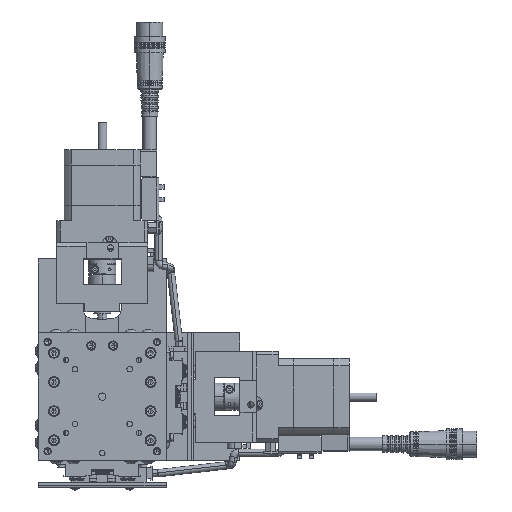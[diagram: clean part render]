
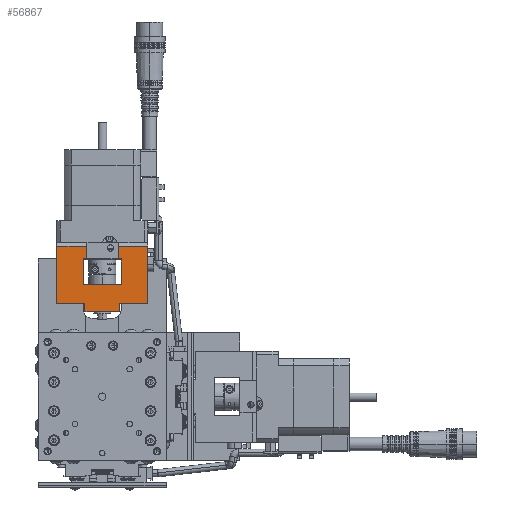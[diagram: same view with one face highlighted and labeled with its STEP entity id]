
A CAD part, top view. The second image highlights one B-rep face of the part: STEP entity #56867.
In plain terms, the highlighted planar face has unit normal (0, 0, 1).
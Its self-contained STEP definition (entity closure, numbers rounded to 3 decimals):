
#624 = CARTESIAN_POINT ( 'NONE',  ( -264.128, 16.428, -118.482 ) ) ;
#841 = EDGE_CURVE ( 'NONE', #35392, #72255, #108956, .T. ) ;
#2562 = LINE ( 'NONE', #9949, #57507 ) ;
#5188 = ORIENTED_EDGE ( 'NONE', *, *, #12984, .F. ) ;
#6239 = DIRECTION ( 'NONE',  ( 0., 1., 0. ) ) ;
#6481 = PLANE ( 'NONE',  #100264 ) ;
#6894 = DIRECTION ( 'NONE',  ( 1., 0., 0. ) ) ;
#7566 = ORIENTED_EDGE ( 'NONE', *, *, #7742, .T. ) ;
#7742 = EDGE_CURVE ( 'NONE', #115161, #116480, #78884, .T. ) ;
#9949 = CARTESIAN_POINT ( 'NONE',  ( -288.628, 66.428, -118.482 ) ) ;
#11623 = CARTESIAN_POINT ( 'NONE',  ( -288.628, 51.928, -118.482 ) ) ;
#12984 = EDGE_CURVE ( 'NONE', #37659, #81501, #57841, .T. ) ;
#13915 = CARTESIAN_POINT ( 'NONE',  ( -293.128, 50.128, -118.482 ) ) ;
#14188 = EDGE_CURVE ( 'NONE', #93069, #115161, #52733, .T. ) ;
#15088 = CARTESIAN_POINT ( 'NONE',  ( -293.128, 32.728, -118.482 ) ) ;
#16090 = VERTEX_POINT ( 'NONE', #76047 ) ;
#17436 = EDGE_CURVE ( 'NONE', #76089, #81501, #44370, .T. ) ;
#18029 = VERTEX_POINT ( 'NONE', #113504 ) ;
#18033 = ORIENTED_EDGE ( 'NONE', *, *, #14188, .T. ) ;
#19072 = CARTESIAN_POINT ( 'NONE',  ( -295.628, 66.428, -118.482 ) ) ;
#19643 = EDGE_CURVE ( 'NONE', #18029, #118456, #86918, .T. ) ;
#20054 = LINE ( 'NONE', #55530, #55513 ) ;
#20164 = EDGE_CURVE ( 'NONE', #76089, #95450, #76282, .T. ) ;
#20693 = EDGE_CURVE ( 'NONE', #106196, #83632, #20054, .T. ) ;
#20765 = ORIENTED_EDGE ( 'NONE', *, *, #841, .T. ) ;
#21557 = CARTESIAN_POINT ( 'NONE',  ( -264.128, 31.928, -118.482 ) ) ;
#21785 = EDGE_CURVE ( 'NONE', #18029, #50398, #98417, .T. ) ;
#22670 = ORIENTED_EDGE ( 'NONE', *, *, #21785, .F. ) ;
#23294 = DIRECTION ( 'NONE',  ( 0., -1., 0. ) ) ;
#24516 = CARTESIAN_POINT ( 'NONE',  ( -274.628, 60.178, -118.482 ) ) ;
#24540 = DIRECTION ( 'NONE',  ( 1., 0., 0. ) ) ;
#26460 = LINE ( 'NONE', #48834, #62054 ) ;
#28184 = VECTOR ( 'NONE', #51459, 1000. ) ;
#28505 = VECTOR ( 'NONE', #103936, 1000. ) ;
#29037 = DIRECTION ( 'NONE',  ( 1., 0., 0. ) ) ;
#29394 = CARTESIAN_POINT ( 'NONE',  ( -288.628, 50.128, -118.482 ) ) ;
#29679 = EDGE_CURVE ( 'NONE', #93069, #83632, #85199, .T. ) ;
#31799 = VECTOR ( 'NONE', #73877, 1000. ) ;
#34775 = ORIENTED_EDGE ( 'NONE', *, *, #111610, .F. ) ;
#34994 = ORIENTED_EDGE ( 'NONE', *, *, #20693, .T. ) ;
#35392 = VERTEX_POINT ( 'NONE', #84040 ) ;
#37659 = VERTEX_POINT ( 'NONE', #107313 ) ;
#37687 = CARTESIAN_POINT ( 'NONE',  ( -288.628, 51.928, -118.482 ) ) ;
#37969 = ORIENTED_EDGE ( 'NONE', *, *, #19643, .T. ) ;
#39052 = CARTESIAN_POINT ( 'NONE',  ( -288.628, 50.128, -118.482 ) ) ;
#42997 = EDGE_CURVE ( 'NONE', #106196, #118456, #2562, .T. ) ;
#43176 = VERTEX_POINT ( 'NONE', #21557 ) ;
#43647 = CARTESIAN_POINT ( 'NONE',  ( -288.628, 16.428, -118.482 ) ) ;
#44300 = CARTESIAN_POINT ( 'NONE',  ( -288.628, 66.428, -118.482 ) ) ;
#44370 = LINE ( 'NONE', #43647, #84388 ) ;
#44543 = VECTOR ( 'NONE', #23294, 1000. ) ;
#47574 = LINE ( 'NONE', #122115, #66806 ) ;
#48834 = CARTESIAN_POINT ( 'NONE',  ( -264.128, 60.178, -118.482 ) ) ;
#49674 = CARTESIAN_POINT ( 'NONE',  ( -259.628, 50.928, -118.482 ) ) ;
#49775 = VECTOR ( 'NONE', #115940, 1000. ) ;
#50261 = EDGE_CURVE ( 'NONE', #16090, #43176, #47574, .T. ) ;
#50398 = VERTEX_POINT ( 'NONE', #49674 ) ;
#50883 = ORIENTED_EDGE ( 'NONE', *, *, #20164, .F. ) ;
#51459 = DIRECTION ( 'NONE',  ( 0., -1., 0. ) ) ;
#52733 = LINE ( 'NONE', #29394, #49775 ) ;
#53303 = VECTOR ( 'NONE', #54883, 1000. ) ;
#54883 = DIRECTION ( 'NONE',  ( 1., 0., 0. ) ) ;
#55513 = VECTOR ( 'NONE', #91957, 1000. ) ;
#55530 = CARTESIAN_POINT ( 'NONE',  ( -295.628, 50.128, -118.482 ) ) ;
#55661 = DIRECTION ( 'NONE',  ( 0., -1., 0. ) ) ;
#56867 = ADVANCED_FACE ( 'NONE', ( #73562 ), #6481, .T. ) ;
#57158 = ORIENTED_EDGE ( 'NONE', *, *, #81125, .T. ) ;
#57507 = VECTOR ( 'NONE', #29037, 1000. ) ;
#57841 = LINE ( 'NONE', #15088, #53303 ) ;
#61236 = VECTOR ( 'NONE', #24540, 1000. ) ;
#62054 = VECTOR ( 'NONE', #87277, 1000. ) ;
#62628 = EDGE_CURVE ( 'NONE', #116480, #95450, #74107, .T. ) ;
#63261 = CARTESIAN_POINT ( 'NONE',  ( -288.628, 16.428, -118.482 ) ) ;
#64627 = CARTESIAN_POINT ( 'NONE',  ( -274.628, 51.928, -118.482 ) ) ;
#65008 = ORIENTED_EDGE ( 'NONE', *, *, #50261, .F. ) ;
#66806 = VECTOR ( 'NONE', #120483, 1000. ) ;
#67292 = ORIENTED_EDGE ( 'NONE', *, *, #29679, .F. ) ;
#68231 = ORIENTED_EDGE ( 'NONE', *, *, #104506, .T. ) ;
#69038 = VECTOR ( 'NONE', #71936, 1000. ) ;
#71825 = CARTESIAN_POINT ( 'NONE',  ( -274.628, 30.928, -118.482 ) ) ;
#71936 = DIRECTION ( 'NONE',  ( 1., 0., 0. ) ) ;
#72255 = VERTEX_POINT ( 'NONE', #624 ) ;
#73562 = FACE_OUTER_BOUND ( 'NONE', #79626, .T. ) ;
#73877 = DIRECTION ( 'NONE',  ( 1., 0., 0. ) ) ;
#74003 = ORIENTED_EDGE ( 'NONE', *, *, #42997, .F. ) ;
#74107 = LINE ( 'NONE', #24516, #44543 ) ;
#76047 = CARTESIAN_POINT ( 'NONE',  ( -259.628, 31.928, -118.482 ) ) ;
#76089 = VERTEX_POINT ( 'NONE', #119269 ) ;
#76282 = LINE ( 'NONE', #122287, #31799 ) ;
#76321 = CARTESIAN_POINT ( 'NONE',  ( -295.628, 50.128, -118.482 ) ) ;
#78884 = LINE ( 'NONE', #37687, #28505 ) ;
#79233 = VECTOR ( 'NONE', #108041, 1000. ) ;
#79626 = EDGE_LOOP ( 'NONE', ( #74003, #34994, #67292, #18033, #7566, #91599, #50883, #103753, #5188, #57158, #20765, #68231, #65008, #34775, #22670, #37969 ) ) ;
#81125 = EDGE_CURVE ( 'NONE', #37659, #35392, #118654, .T. ) ;
#81299 = CARTESIAN_POINT ( 'NONE',  ( -261.878, 50.928, -118.482 ) ) ;
#81501 = VERTEX_POINT ( 'NONE', #96056 ) ;
#83632 = VERTEX_POINT ( 'NONE', #76321 ) ;
#84040 = CARTESIAN_POINT ( 'NONE',  ( -295.628, 16.428, -118.482 ) ) ;
#84388 = VECTOR ( 'NONE', #6239, 1000. ) ;
#85199 = LINE ( 'NONE', #13915, #79233 ) ;
#86918 = LINE ( 'NONE', #103408, #98704 ) ;
#87277 = DIRECTION ( 'NONE',  ( 0., 1., 0. ) ) ;
#90656 = DIRECTION ( 'NONE',  ( 0., 0., 1. ) ) ;
#91599 = ORIENTED_EDGE ( 'NONE', *, *, #62628, .T. ) ;
#91957 = DIRECTION ( 'NONE',  ( 0., -1., 0. ) ) ;
#93069 = VERTEX_POINT ( 'NONE', #39052 ) ;
#95450 = VERTEX_POINT ( 'NONE', #71825 ) ;
#96056 = CARTESIAN_POINT ( 'NONE',  ( -288.628, 32.728, -118.482 ) ) ;
#98417 = LINE ( 'NONE', #81299, #61236 ) ;
#98704 = VECTOR ( 'NONE', #104658, 1000. ) ;
#100264 = AXIS2_PLACEMENT_3D ( 'NONE', #44300, #90656, #6894 ) ;
#101706 = CARTESIAN_POINT ( 'NONE',  ( -264.128, 66.428, -118.482 ) ) ;
#103408 = CARTESIAN_POINT ( 'NONE',  ( -264.128, 60.178, -118.482 ) ) ;
#103753 = ORIENTED_EDGE ( 'NONE', *, *, #17436, .T. ) ;
#103936 = DIRECTION ( 'NONE',  ( 1., 0., 0. ) ) ;
#104506 = EDGE_CURVE ( 'NONE', #72255, #43176, #26460, .T. ) ;
#104658 = DIRECTION ( 'NONE',  ( 0., 1., 0. ) ) ;
#106196 = VERTEX_POINT ( 'NONE', #19072 ) ;
#107313 = CARTESIAN_POINT ( 'NONE',  ( -295.628, 32.728, -118.482 ) ) ;
#107524 = VECTOR ( 'NONE', #55661, 1000. ) ;
#108041 = DIRECTION ( 'NONE',  ( -1., 0., 0. ) ) ;
#108956 = LINE ( 'NONE', #63261, #69038 ) ;
#111610 = EDGE_CURVE ( 'NONE', #50398, #16090, #117820, .T. ) ;
#113504 = CARTESIAN_POINT ( 'NONE',  ( -264.128, 50.928, -118.482 ) ) ;
#115161 = VERTEX_POINT ( 'NONE', #11623 ) ;
#115940 = DIRECTION ( 'NONE',  ( 0., 1., 0. ) ) ;
#116480 = VERTEX_POINT ( 'NONE', #64627 ) ;
#117820 = LINE ( 'NONE', #121854, #107524 ) ;
#118456 = VERTEX_POINT ( 'NONE', #101706 ) ;
#118466 = CARTESIAN_POINT ( 'NONE',  ( -295.628, 16.428, -118.482 ) ) ;
#118654 = LINE ( 'NONE', #118466, #28184 ) ;
#119269 = CARTESIAN_POINT ( 'NONE',  ( -288.628, 30.928, -118.482 ) ) ;
#120483 = DIRECTION ( 'NONE',  ( -1., 0., 0. ) ) ;
#121854 = CARTESIAN_POINT ( 'NONE',  ( -259.628, 41.428, -118.482 ) ) ;
#122115 = CARTESIAN_POINT ( 'NONE',  ( -261.878, 31.928, -118.482 ) ) ;
#122287 = CARTESIAN_POINT ( 'NONE',  ( -288.628, 30.928, -118.482 ) ) ;
